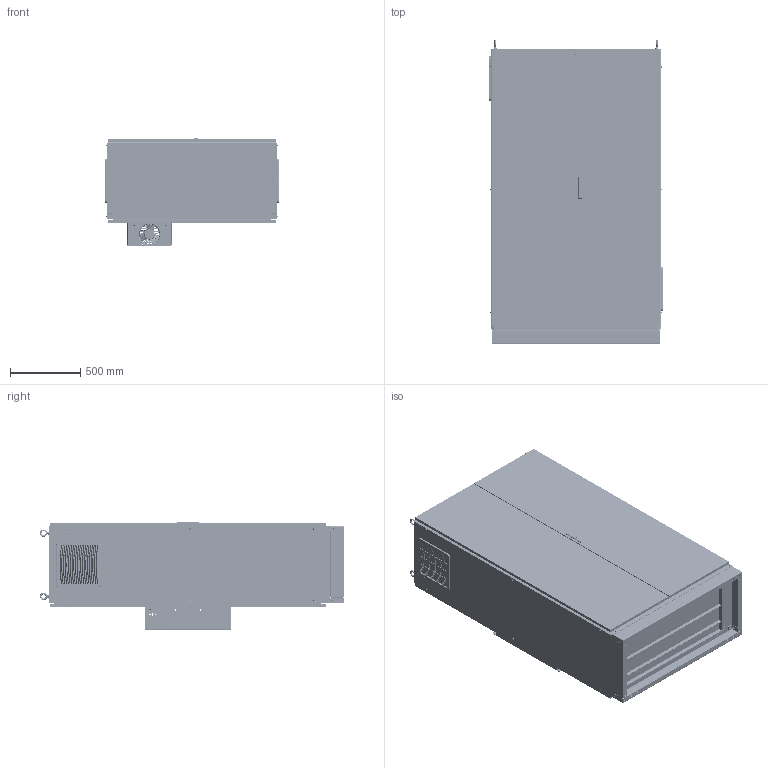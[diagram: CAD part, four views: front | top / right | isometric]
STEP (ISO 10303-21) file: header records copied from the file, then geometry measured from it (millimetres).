
FILE_DESCRIPTION (( 'STEP AP203' ), '1' );
FILE_NAME ('WENCL-N1-834824_GEA_Option_1_Drive_E.STEP', '2019-07-22T15:26:58', ( 'root' ), ( '' ), 'SwSTEP 2.0', 'SolidWorks 2018', '' );
FILE_SCHEMA (( 'CONFIG_CONTROL_DESIGN' ));
Products named in the file (14): CFW11 MEC E Parasolid; 0396-7020-60-67; WENCL-N1-834824_GEA_Option_1_Drive_E; WEG LOGOS_ Label; 3156-0291-23-01-00; 3156-0291-23-01-00_Without_Fan; 0396-0004-60-00; 0395-1220-60-17; 0395-1220-60-17_Backpanel_Drive_Thru_Cut; 0396-1201-60-17; 0396-7020-60-67_Cutout_Bottom; 0395-1220-60-17_Doors; WENCL-N1-834824_GLAND_PLATE; 3014T491_STEEL EYEBOLT WITH SHOULDER - FOR LIFTING_3014T491
Assembly tree (16 placements, depth 2):
  WENCL-N1-834824_GEA_Option_1_Drive_E
    0395-1220-60-17
    0396-1201-60-17
    0395-1220-60-17_Doors
    3014T491_STEEL EYEBOLT WITH SHOULDER - FOR LIFTING_3014T491  x4
    0396-7020-60-67
    WEG LOGOS_ Label
    3156-0291-23-01-00
    3156-0291-23-01-00_Without_Fan
    0396-0004-60-00
    0395-1220-60-17_Backpanel_Drive_Thru_Cut
    0396-7020-60-67_Cutout_Bottom
    WENCL-N1-834824_GLAND_PLATE
    CFW11 MEC E Parasolid
Bounding box: 1237 x 2168.18 x 774 mm (x, y, z)
Volume: 45352168 mm3; surface area: 42789749.2 mm2
Topology: 81 solids, 183 shells, 12910 faces, 41667 edges, 28716 vertices
Faces by surface type: plane 6841, cylinder 4889, cone 605, bspline 375, torus 186, sphere 14
Full cylindrical faces by diameter (mm): 2 x16, 3.5 x1, 4 x10, 4.2 x12, 5 x2, 5.2 x15, 5.5 x4, 6 x10, 6.2 x4, 8 x20, 9.2 x14, 20 x1, 22.5 x2, 28.5 x2, 50.8 x2, 63.5 x2, 74.5 x1
Entity records: 529385 total; most frequent: CARTESIAN_POINT 157086, ORIENTED_EDGE 76806, DIRECTION 73234, EDGE_CURVE 41209, VERTEX_POINT 28565, LINE 25010, VECTOR 25010, AXIS2_PLACEMENT_3D 24112
